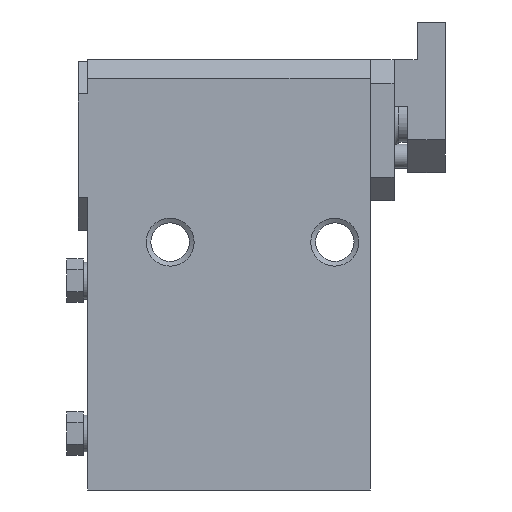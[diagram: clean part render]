
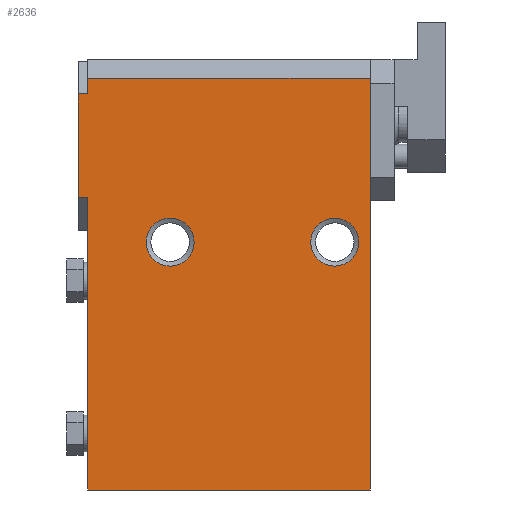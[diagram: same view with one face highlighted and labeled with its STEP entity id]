
A CAD part, left-side view. The second image highlights one B-rep face of the part: STEP entity #2636.
In plain terms, the highlighted planar face has unit normal (-1, 0, 0).
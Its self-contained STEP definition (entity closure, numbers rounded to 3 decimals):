
#38=LINE('',#3956,#268);
#44=LINE('',#3968,#274);
#60=LINE('',#3998,#290);
#61=LINE('',#4001,#291);
#62=LINE('',#4003,#292);
#63=LINE('',#4005,#293);
#64=LINE('',#4007,#294);
#65=LINE('',#4008,#295);
#268=VECTOR('',#3156,2.);
#274=VECTOR('',#3164,2.);
#290=VECTOR('',#3192,22.);
#291=VECTOR('',#3195,62.2);
#292=VECTOR('',#3196,60.);
#293=VECTOR('',#3197,87.5);
#294=VECTOR('',#3198,60.);
#295=VECTOR('',#3199,3.3);
#522=PLANE('',#2829);
#624=FACE_BOUND('',#907,.T.);
#625=FACE_BOUND('',#908,.T.);
#722=FACE_OUTER_BOUND('',#906,.T.);
#906=EDGE_LOOP('',(#1863,#1864,#1865,#1866,#1867,#1868,#1869,#1870));
#907=EDGE_LOOP('',(#1871));
#908=EDGE_LOOP('',(#1872));
#1102=CIRCLE('',#2830,5.1);
#1103=CIRCLE('',#2831,5.1);
#1210=VERTEX_POINT('',#3952);
#1212=VERTEX_POINT('',#3955);
#1215=VERTEX_POINT('',#3962);
#1217=VERTEX_POINT('',#3966);
#1226=VERTEX_POINT('',#4000);
#1227=VERTEX_POINT('',#4002);
#1228=VERTEX_POINT('',#4004);
#1229=VERTEX_POINT('',#4006);
#1230=VERTEX_POINT('',#4009);
#1231=VERTEX_POINT('',#4011);
#1456=EDGE_CURVE('',#1210,#1212,#38,.T.);
#1462=EDGE_CURVE('',#1215,#1217,#44,.T.);
#1478=EDGE_CURVE('',#1212,#1217,#60,.T.);
#1479=EDGE_CURVE('',#1226,#1210,#61,.T.);
#1480=EDGE_CURVE('',#1227,#1226,#62,.T.);
#1481=EDGE_CURVE('',#1228,#1227,#63,.T.);
#1482=EDGE_CURVE('',#1228,#1229,#64,.T.);
#1483=EDGE_CURVE('',#1215,#1229,#65,.T.);
#1484=EDGE_CURVE('',#1230,#1230,#1102,.T.);
#1485=EDGE_CURVE('',#1231,#1231,#1103,.T.);
#1863=ORIENTED_EDGE('',*,*,#1462,.T.);
#1864=ORIENTED_EDGE('',*,*,#1478,.F.);
#1865=ORIENTED_EDGE('',*,*,#1456,.F.);
#1866=ORIENTED_EDGE('',*,*,#1479,.F.);
#1867=ORIENTED_EDGE('',*,*,#1480,.F.);
#1868=ORIENTED_EDGE('',*,*,#1481,.F.);
#1869=ORIENTED_EDGE('',*,*,#1482,.T.);
#1870=ORIENTED_EDGE('',*,*,#1483,.F.);
#1871=ORIENTED_EDGE('',*,*,#1484,.F.);
#1872=ORIENTED_EDGE('',*,*,#1485,.F.);
#2636=ADVANCED_FACE('',(#722,#624,#625),#522,.T.);
#2829=AXIS2_PLACEMENT_3D('',#3999,#3193,#3194);
#2830=AXIS2_PLACEMENT_3D('',#4010,#3200,#3201);
#2831=AXIS2_PLACEMENT_3D('',#4012,#3202,#3203);
#3156=DIRECTION('',(0.,1.,0.));
#3164=DIRECTION('',(0.,1.,0.));
#3192=DIRECTION('',(0.,0.,1.));
#3193=DIRECTION('center_axis',(-1.,0.,0.));
#3194=DIRECTION('ref_axis',(0.,0.,1.));
#3195=DIRECTION('',(0.,0.,1.));
#3196=DIRECTION('',(0.,1.,0.));
#3197=DIRECTION('',(0.,0.,-1.));
#3198=DIRECTION('',(0.,1.,0.));
#3199=DIRECTION('',(0.,0.,1.));
#3200=DIRECTION('center_axis',(-1.,0.,0.));
#3201=DIRECTION('ref_axis',(0.,-1.,0.));
#3202=DIRECTION('center_axis',(-1.,0.,0.));
#3203=DIRECTION('ref_axis',(0.,-1.,0.));
#3952=CARTESIAN_POINT('',(-20.,30.,9.5));
#3955=CARTESIAN_POINT('',(-20.,32.,9.5));
#3956=CARTESIAN_POINT('',(-20.,30.,9.5));
#3962=CARTESIAN_POINT('',(-20.,30.,31.5));
#3966=CARTESIAN_POINT('',(-20.,32.,31.5));
#3968=CARTESIAN_POINT('',(-20.,30.,31.5));
#3998=CARTESIAN_POINT('',(-20.,32.,15.));
#3999=CARTESIAN_POINT('Origin',(-20.,30.,9.5));
#4000=CARTESIAN_POINT('',(-20.,30.,-52.7));
#4001=CARTESIAN_POINT('',(-20.,30.,-52.7));
#4002=CARTESIAN_POINT('',(-20.,-30.,-52.7));
#4003=CARTESIAN_POINT('',(-20.,-30.,-52.7));
#4004=CARTESIAN_POINT('',(-20.,-30.,34.8));
#4005=CARTESIAN_POINT('',(-20.,-30.,34.8));
#4006=CARTESIAN_POINT('',(-20.,30.,34.8));
#4007=CARTESIAN_POINT('',(-20.,-30.,34.8));
#4008=CARTESIAN_POINT('',(-20.,30.,-52.7));
#4009=CARTESIAN_POINT('',(-20.,-27.6,0.));
#4010=CARTESIAN_POINT('Origin',(-20.,-22.5,0.));
#4011=CARTESIAN_POINT('',(-20.,7.4,0.));
#4012=CARTESIAN_POINT('Origin',(-20.,12.5,0.));
